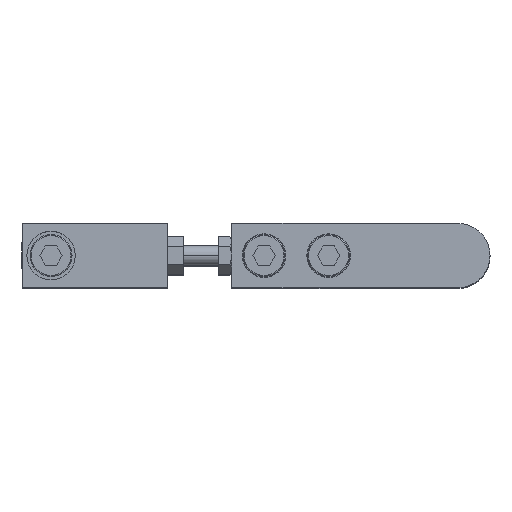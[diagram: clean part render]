
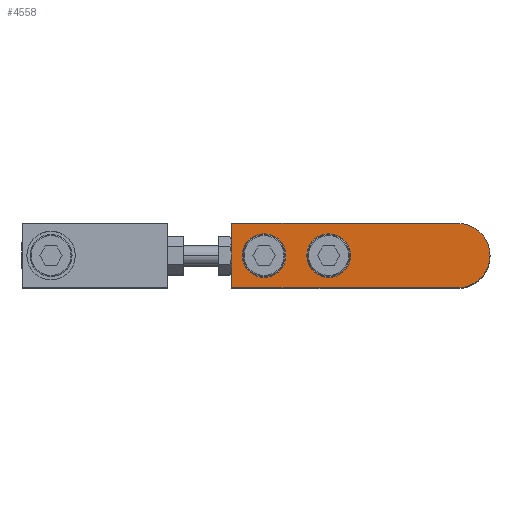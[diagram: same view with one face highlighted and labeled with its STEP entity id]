
A CAD part, top view. The second image highlights one B-rep face of the part: STEP entity #4558.
In plain terms, the highlighted planar face has unit normal (0, 0, 1) as drawn and (0, 0, -1) by its records, which use the part's own axes.
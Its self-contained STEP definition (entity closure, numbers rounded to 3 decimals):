
#112 = DIRECTION ( 'NONE',  ( 1., 0., 0. ) ) ;
#122 = VERTEX_POINT ( 'NONE', #645 ) ;
#359 = CARTESIAN_POINT ( 'NONE',  ( 33.25, 0., -5. ) ) ;
#629 = ORIENTED_EDGE ( 'NONE', *, *, #6495, .F. ) ;
#645 = CARTESIAN_POINT ( 'NONE',  ( 53.25, 0., -5. ) ) ;
#713 = DIRECTION ( 'NONE',  ( 0., 0., 1. ) ) ;
#717 = VERTEX_POINT ( 'NONE', #7285 ) ;
#748 = VECTOR ( 'NONE', #3253, 1000. ) ;
#752 = DIRECTION ( 'NONE',  ( 0., 1., 0. ) ) ;
#851 = DIRECTION ( 'NONE',  ( -1., 0., 0. ) ) ;
#930 = AXIS2_PLACEMENT_3D ( 'NONE', #7166, #3682, #112 ) ;
#1018 = DIRECTION ( 'NONE',  ( -1., 0., 0. ) ) ;
#1116 = CARTESIAN_POINT ( 'NONE',  ( 60., 0., -5. ) ) ;
#1133 = LINE ( 'NONE', #2664, #748 ) ;
#1137 = CARTESIAN_POINT ( 'NONE',  ( 0., 10., -5. ) ) ;
#1249 = EDGE_CURVE ( 'NONE', #1981, #122, #5075, .T. ) ;
#1322 = DIRECTION ( 'NONE',  ( 0., 0., -1. ) ) ;
#1367 = VECTOR ( 'NONE', #752, 1000. ) ;
#1368 = ORIENTED_EDGE ( 'NONE', *, *, #1875, .F. ) ;
#1469 = CIRCLE ( 'NONE', #2144, 6.75 ) ;
#1694 = EDGE_CURVE ( 'NONE', #6994, #5730, #2661, .T. ) ;
#1875 = EDGE_CURVE ( 'NONE', #5388, #2101, #1469, .T. ) ;
#1981 = VERTEX_POINT ( 'NONE', #5660 ) ;
#2018 = CARTESIAN_POINT ( 'NONE',  ( 0., 0., -5. ) ) ;
#2050 = ORIENTED_EDGE ( 'NONE', *, *, #4845, .F. ) ;
#2101 = VERTEX_POINT ( 'NONE', #5886 ) ;
#2144 = AXIS2_PLACEMENT_3D ( 'NONE', #5199, #6261, #1018 ) ;
#2227 = DIRECTION ( 'NONE',  ( -1., 0., 0. ) ) ;
#2456 = ORIENTED_EDGE ( 'NONE', *, *, #6717, .F. ) ;
#2543 = FACE_BOUND ( 'NONE', #2738, .T. ) ;
#2598 = CARTESIAN_POINT ( 'NONE',  ( 40., 0., -5. ) ) ;
#2632 = CARTESIAN_POINT ( 'NONE',  ( 0., -10., -5. ) ) ;
#2661 = LINE ( 'NONE', #3648, #7145 ) ;
#2664 = CARTESIAN_POINT ( 'NONE',  ( 0., -10., -5. ) ) ;
#2711 = ORIENTED_EDGE ( 'NONE', *, *, #1694, .F. ) ;
#2738 = EDGE_LOOP ( 'NONE', ( #5813, #5687 ) ) ;
#2947 = LINE ( 'NONE', #3111, #1367 ) ;
#3111 = CARTESIAN_POINT ( 'NONE',  ( 70., 10., -5. ) ) ;
#3253 = DIRECTION ( 'NONE',  ( 1., 0., 0. ) ) ;
#3277 = EDGE_LOOP ( 'NONE', ( #1368, #2456 ) ) ;
#3648 = CARTESIAN_POINT ( 'NONE',  ( 0., 10., -5. ) ) ;
#3682 = DIRECTION ( 'NONE',  ( 0., 0., 1. ) ) ;
#3710 = AXIS2_PLACEMENT_3D ( 'NONE', #2598, #4397, #851 ) ;
#3724 = CARTESIAN_POINT ( 'NONE',  ( 60., 0., -5. ) ) ;
#3736 = DIRECTION ( 'NONE',  ( 0., 0., 1. ) ) ;
#4262 = CARTESIAN_POINT ( 'NONE',  ( 0., 0., -5. ) ) ;
#4326 = CARTESIAN_POINT ( 'NONE',  ( -10., 0., -5. ) ) ;
#4397 = DIRECTION ( 'NONE',  ( 0., 0., -1. ) ) ;
#4516 = FACE_BOUND ( 'NONE', #3277, .T. ) ;
#4558 = ADVANCED_FACE ( 'NONE', ( #2543, #4516, #5480 ), #6619, .F. ) ;
#4845 = EDGE_CURVE ( 'NONE', #6484, #5011, #6124, .T. ) ;
#4850 = DIRECTION ( 'NONE',  ( 1., 0., 0. ) ) ;
#5011 = VERTEX_POINT ( 'NONE', #2632 ) ;
#5075 = CIRCLE ( 'NONE', #5225, 6.75 ) ;
#5199 = CARTESIAN_POINT ( 'NONE',  ( 40., 0., -5. ) ) ;
#5225 = AXIS2_PLACEMENT_3D ( 'NONE', #3724, #1322, #7201 ) ;
#5283 = ORIENTED_EDGE ( 'NONE', *, *, #5355, .F. ) ;
#5336 = AXIS2_PLACEMENT_3D ( 'NONE', #1116, #5695, #2227 ) ;
#5355 = EDGE_CURVE ( 'NONE', #5730, #6484, #6158, .T. ) ;
#5388 = VERTEX_POINT ( 'NONE', #359 ) ;
#5480 = FACE_OUTER_BOUND ( 'NONE', #5750, .T. ) ;
#5516 = DIRECTION ( 'NONE',  ( 1., 0., 0. ) ) ;
#5588 = AXIS2_PLACEMENT_3D ( 'NONE', #4262, #713, #4850 ) ;
#5597 = EDGE_CURVE ( 'NONE', #122, #1981, #5896, .T. ) ;
#5660 = CARTESIAN_POINT ( 'NONE',  ( 66.75, 0., -5. ) ) ;
#5687 = ORIENTED_EDGE ( 'NONE', *, *, #1249, .F. ) ;
#5695 = DIRECTION ( 'NONE',  ( 0., 0., -1. ) ) ;
#5730 = VERTEX_POINT ( 'NONE', #1137 ) ;
#5750 = EDGE_LOOP ( 'NONE', ( #5283, #2711, #629, #7552, #2050 ) ) ;
#5780 = CARTESIAN_POINT ( 'NONE',  ( 70., 10., -5. ) ) ;
#5813 = ORIENTED_EDGE ( 'NONE', *, *, #5597, .F. ) ;
#5886 = CARTESIAN_POINT ( 'NONE',  ( 46.75, 0., -5. ) ) ;
#5896 = CIRCLE ( 'NONE', #5336, 6.75 ) ;
#5981 = EDGE_CURVE ( 'NONE', #5011, #717, #1133, .T. ) ;
#6120 = DIRECTION ( 'NONE',  ( -1., 0., 0. ) ) ;
#6124 = CIRCLE ( 'NONE', #930, 10. ) ;
#6158 = CIRCLE ( 'NONE', #6543, 10. ) ;
#6261 = DIRECTION ( 'NONE',  ( 0., 0., -1. ) ) ;
#6429 = CIRCLE ( 'NONE', #3710, 6.75 ) ;
#6484 = VERTEX_POINT ( 'NONE', #4326 ) ;
#6495 = EDGE_CURVE ( 'NONE', #717, #6994, #2947, .T. ) ;
#6543 = AXIS2_PLACEMENT_3D ( 'NONE', #2018, #3736, #5516 ) ;
#6619 = PLANE ( 'NONE',  #5588 ) ;
#6717 = EDGE_CURVE ( 'NONE', #2101, #5388, #6429, .T. ) ;
#6994 = VERTEX_POINT ( 'NONE', #5780 ) ;
#7145 = VECTOR ( 'NONE', #6120, 1000. ) ;
#7166 = CARTESIAN_POINT ( 'NONE',  ( 0., 0., -5. ) ) ;
#7201 = DIRECTION ( 'NONE',  ( -1., 0., 0. ) ) ;
#7285 = CARTESIAN_POINT ( 'NONE',  ( 70., -10., -5. ) ) ;
#7552 = ORIENTED_EDGE ( 'NONE', *, *, #5981, .F. ) ;
